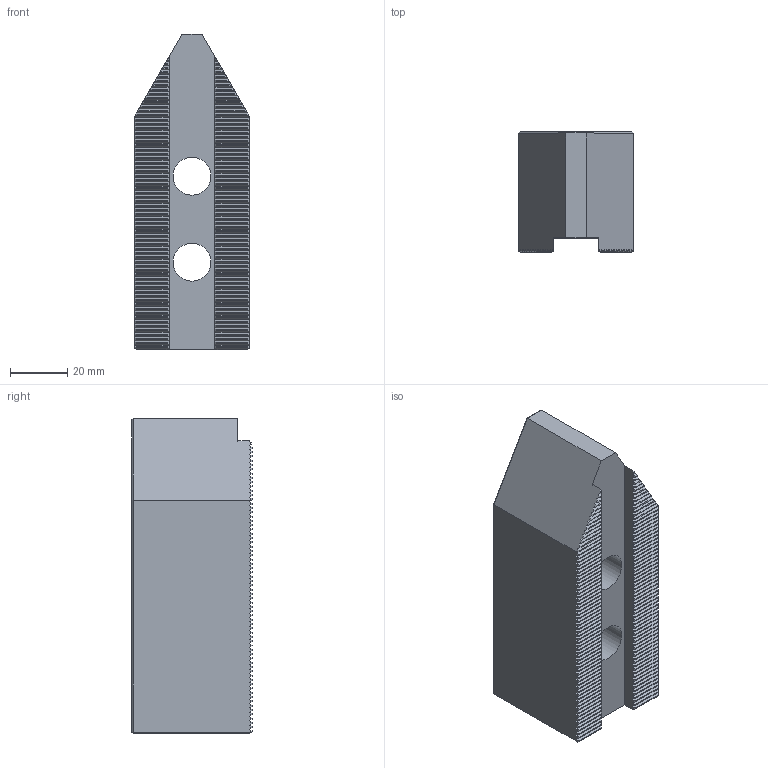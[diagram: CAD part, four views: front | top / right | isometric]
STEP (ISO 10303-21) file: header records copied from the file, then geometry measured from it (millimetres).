
FILE_DESCRIPTION(/* description */ (''),/* implementation_level */ '2;1');
FILE_NAME(/* name */ 'SC-10H42P60.stp',/* time_stamp */ '2025-10-21T11:08:17+03:00',/* author */ ('Arina Rekina'),/* organization */ (''),/* preprocessor_version */ 'ST-DEVELOPER v19.2',/* originating_system */ 'Autodesk Inventor 2024',/* authorisation */ '');
FILE_SCHEMA (('AUTOMOTIVE_DESIGN { 1 0 10303 214 3 1 1 }'));
Length unit declared in the file: millimetre
Products named in the file (1): SC-06H60
Bounding box: 40 x 42 x 110 mm (x, y, z)
Volume: 138502.3 mm3; surface area: 24827.7 mm2
Topology: 1 solids, 1 shells, 710 faces, 2106 edges, 1400 vertices
Faces by surface type: plane 704, cylinder 4, cone 2
Full cylindrical faces by diameter (mm): 13.2 x2, 19 x2
Entity records: 23297 total; most frequent: CARTESIAN_POINT 4217, ORIENTED_EDGE 4212, DIRECTION 3540, EDGE_CURVE 2106, LINE 2094, VECTOR 2094, VERTEX_POINT 1400, AXIS2_PLACEMENT_3D 723
